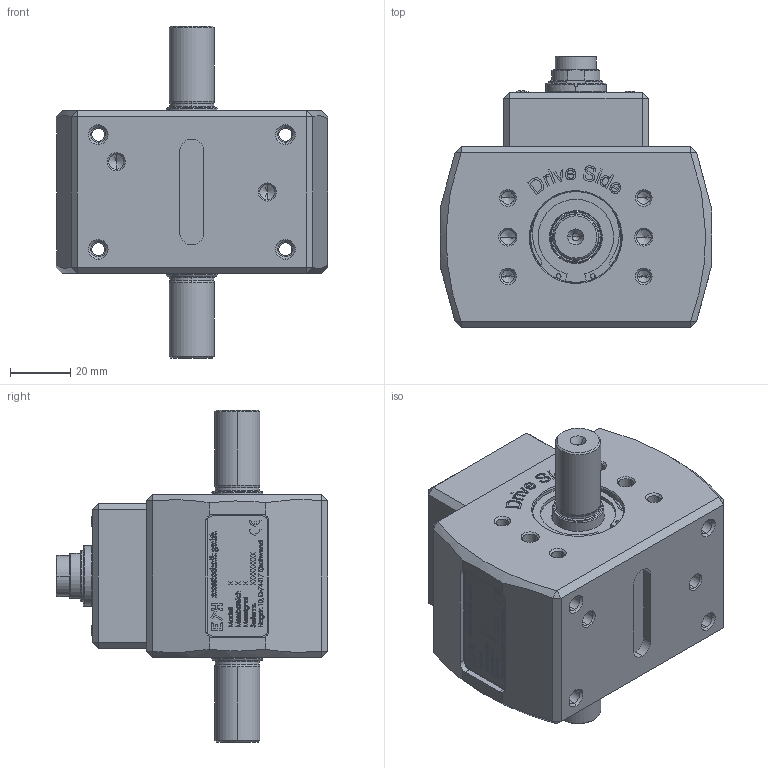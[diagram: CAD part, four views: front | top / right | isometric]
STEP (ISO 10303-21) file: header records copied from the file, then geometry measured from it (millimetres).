
FILE_DESCRIPTION (( 'STEP AP214' ), '1' );
FILE_NAME ('DRBL-II.STEP', '2023-06-14T09:01:42', ( '' ), ( '' ), 'SwSTEP 2.0', 'SolidWorks 2023', '' );
FILE_SCHEMA (( 'AUTOMOTIVE_DESIGN' ));
Length unit declared in the file: millimetre
Products named in the file (1): DRBL-II
Bounding box: 90.12 x 90 x 110 mm (x, y, z)
Volume: 236293 mm3; surface area: 68887.2 mm2
Topology: 13 solids, 13 shells, 3195 faces, 8425 edges, 5507 vertices
Faces by surface type: plane 1518, bspline 1135, cylinder 367, cone 150, torus 25
Entity records: 146043 total; most frequent: CARTESIAN_POINT 74157, ORIENTED_EDGE 16722, DIRECTION 11178, EDGE_CURVE 8361, VERTEX_POINT 5507, LINE 5082, VECTOR 5082, EDGE_LOOP 3552
